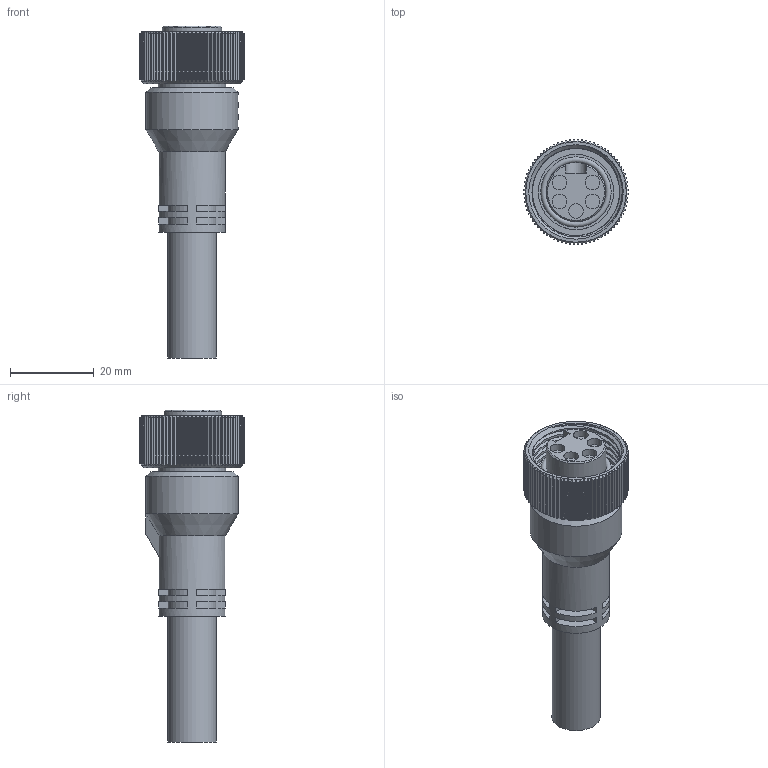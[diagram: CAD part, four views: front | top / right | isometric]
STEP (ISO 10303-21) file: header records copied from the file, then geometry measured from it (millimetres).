
FILE_DESCRIPTION (( 'STEP AP203' ), '1' );
FILE_NAME ('CM03A-P5S-xxx(R1).STEP', '2022-04-07T07:16:36', ( '' ), ( '' ), 'SwSTEP 2.0', 'SolidWorks 2018', '' );
FILE_SCHEMA (( 'CONFIG_CONTROL_DESIGN' ));
Length unit declared in the file: millimetre
Products named in the file (1): CM03A-P5S-xxx(R1)
Bounding box: 24.98 x 24.98 x 79.3 mm (x, y, z)
Volume: 16500.9 mm3; surface area: 7754.5 mm2
Topology: 1 solids, 1 shells, 572 faces, 1649 edges, 1098 vertices
Faces by surface type: cylinder 346, plane 212, cone 7, bspline 6, torus 1
Full cylindrical faces by diameter (mm): 3.5 x5, 11.6 x1, 14.2 x1, 16 x1, 16.2 x1, 18 x1, 22 x1, 22.7 x1
Entity records: 23215 total; most frequent: CARTESIAN_POINT 9713, ORIENTED_EDGE 3230, DIRECTION 2151, EDGE_CURVE 1615, VERTEX_POINT 1087, B_SPLINE_CURVE_WITH_KNOTS 824, AXIS2_PLACEMENT_3D 797, EDGE_LOOP 616
